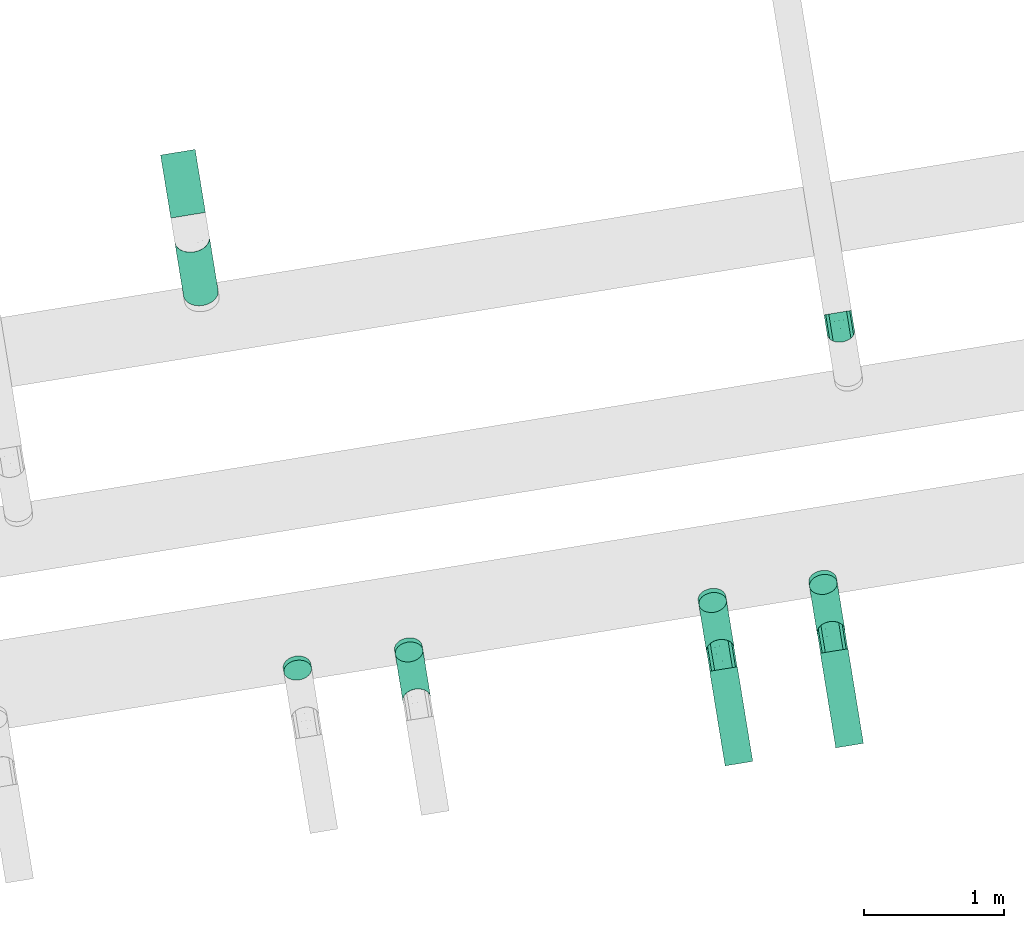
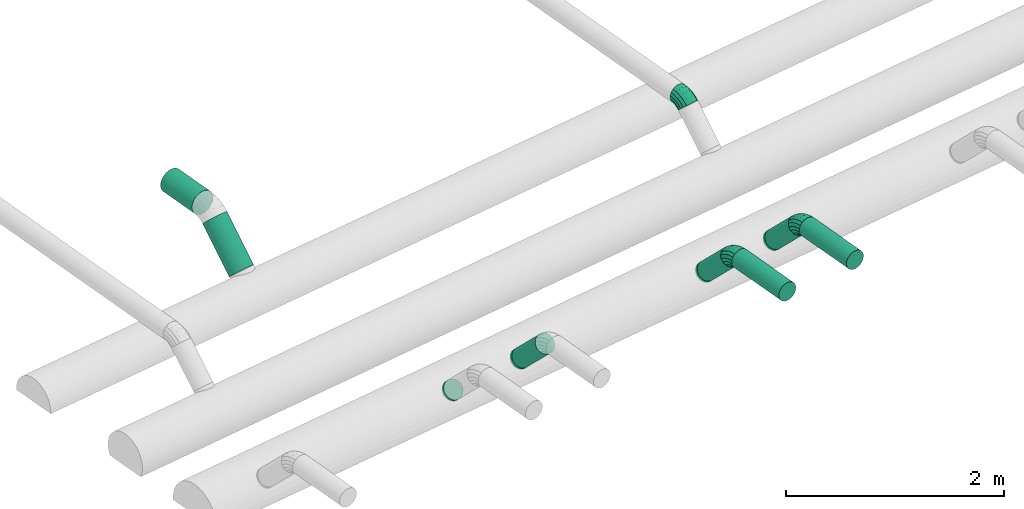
# One storey, part 3 of 19: 7 flow fittings, 7 flow segments.
"""IFC2X3 building model written with IfcOpenShell, lengths in millimetres."""

from ifc_helpers import new_model, entity, si_unit, converted_unit, derived_unit, direction, frame, frame_2d, origin, origin_with_axes, origin_2d_with_axis, place, context, subcontext, project, spatial, circle, extrude, faceted_brep, source, transform, mapped, material, type_object, element, save


model = new_model("IFC2X3")

# Units and contexts
model_context = context("Model", 3, precision=0.01, world=origin(), true_north=direction((6.12323399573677e-17, 1.0)))
plan_context = context("Plan", 3, precision=1e-05, world=origin_with_axes())
body_context = subcontext(model_context, "Body", "Model", "MODEL_VIEW")
ifc_project = project(units=[converted_unit("PLANEANGLEUNIT", "DEGREE", entity("IfcPositiveLengthMeasure", 0.0174532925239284), si_unit("PLANEANGLEUNIT", "RADIAN"), dimensions=[0, 0, 0, 0, 0, 0, 0]), si_unit("AREAUNIT", "SQUARE_METRE"), si_unit("LENGTHUNIT", "METRE", prefix="MILLI"), si_unit("MASSUNIT", "GRAM", prefix="KILO"), si_unit("POWERUNIT", "WATT"), si_unit("PRESSUREUNIT", "PASCAL", prefix="KILO"), si_unit("FORCEUNIT", "NEWTON", prefix="KILO"), si_unit("ELECTRICVOLTAGEUNIT", "VOLT"), si_unit("ELECTRICCURRENTUNIT", "AMPERE"), si_unit("THERMODYNAMICTEMPERATUREUNIT", "DEGREE_CELSIUS"), si_unit("TIMEUNIT", "SECOND"), si_unit("VOLUMEUNIT", "CUBIC_METRE"), derived_unit("LINEARVELOCITYUNIT", [(si_unit("LENGTHUNIT", "METRE"), 1), (si_unit("TIMEUNIT", "SECOND"), -1)]), derived_unit("VOLUMETRICFLOWRATEUNIT", [(si_unit("VOLUMEUNIT", "CUBIC_METRE"), 1), (si_unit("TIMEUNIT", "SECOND"), -1)]), derived_unit("THERMALTRANSMITTANCEUNIT", [(si_unit("POWERUNIT", "WATT"), 1), (si_unit("THERMODYNAMICTEMPERATUREUNIT", "KELVIN"), -1), (si_unit("AREAUNIT", "SQUARE_METRE"), -1)]), derived_unit("SOUNDPRESSUREUNIT", [(si_unit("PRESSUREUNIT", "PASCAL"), 1)])], contexts=[model_context, plan_context])

# Site, building, storey
site_placement = place(None, frame((5.09380697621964e-08, 5.80416781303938e-08, 0.0), z_axis=(0.0, 0.0, 1.0), x_axis=(-0.160806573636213, 0.986985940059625, 0.0)))
site = spatial("IfcSite", under=ifc_project, at=site_placement, Name="Default", CompositionType="ELEMENT")
building_placement = place(site_placement, frame((0.0, 0.0, 0.0), z_axis=(0.0, 0.0, 1.0), x_axis=(1.0, -2.77555756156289e-17, 0.0)))
building = spatial("IfcBuilding", under=site, at=building_placement, Name="Bygning (endres i Project Information)", CompositionType="ELEMENT")
storey_placement = place(building_placement, frame((0.0, 0.0, 51360.0000000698), z_axis=(0.0, 0.0, 1.0), x_axis=(1.0, -2.77555756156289e-17, 0.0)))
storey = spatial("IfcBuildingStorey", under=building, at=storey_placement, Name="H01-Nivå D+0,36", CompositionType="ELEMENT", Elevation=51360.0000000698)

# Flow fittings
ifc_material_1 = material(Name="3601.001 Avtrekk")
duct_fitting_type_1 = type_object("IfcDuctFittingType", Name="magicirc_elbow_full_radius_NOR:magicirc_elbow_full_radius_NOR", PredefinedType="NOTDEFINED", material=ifc_material_1)
shared_shape_1 = source(origin(), body_context, "Body", "Brep", [
    faceted_brep([(-24.3156158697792, -94.2355841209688, 0.0), (-25.4921544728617, -88.3207251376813, 34.2020143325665), (-82.8427124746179, -93.969262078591, 34.2020143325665), (-82.8427124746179, -100.0, 0.0), (-28.8798623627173, -71.2895674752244, 64.2787609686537), (-82.8427124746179, -76.604444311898, 64.2787609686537), (-34.0701319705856, -45.1963201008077, 86.6025403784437), (-82.8427124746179, -50.0, 86.6025403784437), (-40.4369401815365, -13.1882137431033, 98.4807753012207), (-82.842712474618, -17.3648177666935, 98.4807753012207), (-47.2123559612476, 20.8741015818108, 98.4807753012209), (-82.842712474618, 17.3648177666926, 98.4807753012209), (-53.5791641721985, 52.8822079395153, 86.6025403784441), (-82.8427124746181, 50.0, 86.6025403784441), (-58.7694337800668, 78.9754553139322, 64.2787609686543), (-82.8427124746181, 76.6044443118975, 64.2787609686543), (-62.1571416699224, 96.0066129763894, 34.2020143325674), (-82.8427124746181, 93.9692620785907, 34.2020143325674), (-63.3336802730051, 101.921471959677, 0.0), (-82.8427124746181, 100.0, 0.0), (-62.1571416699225, 96.0066129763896, -34.2020143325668), (-82.8427124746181, 93.9692620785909, -34.2020143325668), (-58.7694337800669, 78.9754553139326, -64.2787609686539), (-82.8427124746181, 76.6044443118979, -64.2787609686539), (-53.5791641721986, 52.8822079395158, -86.6025403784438), (-82.8427124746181, 50.0, -86.6025403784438), (-47.2123559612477, 20.8741015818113, -98.4807753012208), (-82.842712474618, 17.3648177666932, -98.4807753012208), (-40.4369401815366, -13.1882137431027, -98.4807753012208), (-82.842712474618, -17.3648177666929, -98.4807753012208), (-34.0701319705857, -45.1963201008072, -86.6025403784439), (-82.8427124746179, -50.0, -86.6025403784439), (-28.8798623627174, -71.289567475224, -64.2787609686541), (-82.8427124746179, -76.6044443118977, -64.2787609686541), (-25.4921544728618, -88.3207251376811, -34.2020143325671), (-82.8427124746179, -93.9692620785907, -34.2020143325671), (31.9623172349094, -77.1638597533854, 0.0), (29.6544537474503, -71.5921844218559, 34.2020143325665), (23.0092256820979, -55.54918470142, 64.2787609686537), (12.828145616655, -30.9698831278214, 86.6025403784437), (0.3392020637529, -0.818906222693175, 98.4807753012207), (-12.9512540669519, 31.267093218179, 98.4807753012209), (-25.440197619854, 61.4180701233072, 86.6025403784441), (-35.621277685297, 85.997371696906, 64.2787609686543), (-42.2665057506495, 102.040371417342, 34.2020143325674), (-44.5743692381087, 107.612046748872, 0.0), (-42.2665057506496, 102.040371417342, -34.2020143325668), (-35.6212776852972, 85.9973716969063, -64.2787609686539), (-25.4401976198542, 61.4180701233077, -86.6025403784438), (-12.9512540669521, 31.2670932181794, -98.4807753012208), (0.339202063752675, -0.818906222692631, -98.4807753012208), (12.8281456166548, -30.9698831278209, -86.6025403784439), (23.0092256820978, -55.5491847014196, -64.2787609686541), (29.6544537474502, -71.5921844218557, -34.2020143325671), (83.8283574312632, -49.4408836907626, 0.0), (80.4778589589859, -44.4265083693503, 34.2020143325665), (70.8304831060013, -29.9881900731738, 64.2787609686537), (56.0498457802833, -7.86740307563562, 86.6025403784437), (37.9187099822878, 19.2677592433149, 98.4807753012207), (18.6239582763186, 48.1443958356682, 98.4807753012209), (0.492822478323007, 75.2795581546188, 86.6025403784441), (-14.2878148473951, 97.4003451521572, 64.2787609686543), (-23.9351907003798, 111.838663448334, 34.2020143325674), (-27.2856891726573, 116.853038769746, 0.0), (-23.9351907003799, 111.838663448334, -34.2020143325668), (-14.2878148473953, 97.4003451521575, -64.2787609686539), (0.492822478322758, 75.2795581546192, -86.6025403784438), (18.6239582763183, 48.1443958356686, -98.4807753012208), (37.9187099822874, 19.2677592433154, -98.4807753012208), (56.049845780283, -7.86740307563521, -86.6025403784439), (70.8304831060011, -29.9881900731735, -64.2787609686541), (80.4778589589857, -44.4265083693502, -34.2020143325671), (129.289321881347, -12.1320343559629, 0.0), (125.02494620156, -7.86765867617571, 34.2020143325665), (112.746165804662, 4.41112172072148, 64.2787609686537), (93.9339828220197, 23.2233047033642, 86.6025403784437), (70.8574241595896, 46.2998633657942, 98.4807753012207), (46.299863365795, 70.8574241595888, 98.4807753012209), (23.2233047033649, 93.9339828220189, 86.6025403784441), (4.41112172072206, 112.746165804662, 64.2787609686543), (-7.86765867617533, 125.024946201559, 34.2020143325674), (-12.1320343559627, 129.289321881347, 0.0), (-7.86765867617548, 125.024946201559, -34.2020143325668), (4.41112172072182, 112.746165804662, -64.2787609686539), (23.2233047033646, 93.9339828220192, -86.6025403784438), (46.2998633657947, 70.8574241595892, -98.4807753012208), (70.8574241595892, 46.2998633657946, -98.4807753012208), (93.9339828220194, 23.2233047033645, -86.6025403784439), (112.746165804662, 4.41112172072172, -64.2787609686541), (125.02494620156, -7.86765867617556, -34.2020143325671)], [[[0, 1, 2, 3]], [[1, 4, 5, 2]], [[4, 6, 7, 5]], [[6, 8, 9, 7]], [[8, 10, 11, 9]], [[10, 12, 13, 11]], [[12, 14, 15, 13]], [[14, 16, 17, 15]], [[16, 18, 19, 17]], [[18, 20, 21, 19]], [[20, 22, 23, 21]], [[22, 24, 25, 23]], [[24, 26, 27, 25]], [[26, 28, 29, 27]], [[28, 30, 31, 29]], [[30, 32, 33, 31]], [[32, 34, 35, 33]], [[34, 0, 3, 35]], [[36, 37, 1, 0]], [[37, 38, 4, 1]], [[38, 39, 6, 4]], [[39, 40, 8, 6]], [[40, 41, 10, 8]], [[41, 42, 12, 10]], [[42, 43, 14, 12]], [[43, 44, 16, 14]], [[44, 45, 18, 16]], [[45, 46, 20, 18]], [[46, 47, 22, 20]], [[47, 48, 24, 22]], [[48, 49, 26, 24]], [[49, 50, 28, 26]], [[50, 51, 30, 28]], [[51, 52, 32, 30]], [[52, 53, 34, 32]], [[53, 36, 0, 34]], [[54, 55, 37, 36]], [[55, 56, 38, 37]], [[56, 57, 39, 38]], [[57, 58, 40, 39]], [[58, 59, 41, 40]], [[59, 60, 42, 41]], [[60, 61, 43, 42]], [[61, 62, 44, 43]], [[62, 63, 45, 44]], [[63, 64, 46, 45]], [[64, 65, 47, 46]], [[65, 66, 48, 47]], [[66, 67, 49, 48]], [[67, 68, 50, 49]], [[68, 69, 51, 50]], [[69, 70, 52, 51]], [[70, 71, 53, 52]], [[71, 54, 36, 53]], [[72, 73, 55, 54]], [[73, 74, 56, 55]], [[74, 75, 57, 56]], [[75, 76, 58, 57]], [[76, 77, 59, 58]], [[77, 78, 60, 59]], [[78, 79, 61, 60]], [[79, 80, 62, 61]], [[80, 81, 63, 62]], [[81, 82, 64, 63]], [[82, 83, 65, 64]], [[83, 84, 66, 65]], [[84, 85, 67, 66]], [[85, 86, 68, 67]], [[86, 87, 69, 68]], [[87, 88, 70, 69]], [[88, 89, 71, 70]], [[89, 72, 54, 71]], [[3, 2, 5, 7, 9, 11, 13, 15, 17, 19, 21, 23, 25, 27, 29, 31, 33, 35]], [[89, 88, 87, 86, 85, 84, 83, 82, 81, 80, 79, 78, 77, 76, 75, 74, 73, 72]]]),
])
for number, where, z_axis, x_axis, name in (
    (1, (995076.02146116, -391132.73177938, 3820.00000015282), (-2.77555756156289e-17, -1.0, 0.0), (-1.0, 2.77555756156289e-17, 0.0), "magicirc_elbow_full_radius_NOR:magicirc_elbow_full_radius_NOR"),
    (2, (992862.921338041, -389919.987431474, 3800.0), (2.77555756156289e-17, 1.0, 0.0), (1.0, -2.77555756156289e-17, 0.0), "magicirc_elbow_full_radius_NOR:magicirc_elbow_full_radius_NOR"),
    (3, (992862.921338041, -390719.987431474, 3800.0), (2.77555756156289e-17, 1.0, 0.0), (1.0, -2.77555756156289e-17, 0.0), "magicirc_elbow_full_radius_NOR:magicirc_elbow_full_radius_NOR"),
):
    element("IfcFlowFitting", number, at=place(storey_placement, frame(where, z_axis=z_axis, x_axis=x_axis)), inside=storey, type_object=duct_fitting_type_1, material=ifc_material_1, Name=name, ObjectType="magicirc_elbow_full_radius_NOR:magicirc_elbow_full_radius_NOR", context=body_context, shape_type="MappedRepresentation", body=[
        mapped(shared_shape_1, transform((0.0, 0.0, 0.0), scale=1.0)),
    ])
ifc_material_2 = material(Name="3601.001 Tilluft")
duct_fitting_type_2 = type_object("IfcDuctFittingType", Name="magicirc_tapoutlet_001:magicirc_tapoutlet_001", PredefinedType="NOTDEFINED", material=ifc_material_2)
shared_shape_2 = source(origin(), body_context, "Body", "Brep", [
    faceted_brep([(-22.3909057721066, -25.8819045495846, -96.5925827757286), (-22.3909057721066, -50.0000000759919, -86.6025405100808), (-22.3909057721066, -70.7106782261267, -70.7106782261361), (-22.3909057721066, -86.6025405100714, -50.0000000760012), (-22.3909057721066, -96.5925827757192, -25.8819045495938), (-22.3909057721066, -100.000000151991, 0.0), (-22.3909057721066, -96.5925827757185, 25.8819045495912), (-22.3909057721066, -86.6025405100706, 50.0000000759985), (-22.3909057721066, -70.7106782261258, 70.7106782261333), (-22.3909057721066, -50.0000000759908, 86.6025405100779), (-22.3909057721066, -25.8819045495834, 96.5925827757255), (-22.3909057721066, 0.0, 100.000000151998), (-22.3909057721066, 25.8819045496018, 96.5925827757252), (-22.3909057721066, 50.0000000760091, 86.6025405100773), (-22.3909057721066, 70.710678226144, 70.7106782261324), (-22.3909057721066, 86.6025405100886, 50.0000000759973), (-22.3909057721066, 96.5925827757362, 25.8819045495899), (-22.3909057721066, 100.00000015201, 0.0), (-22.3909057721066, 96.5925827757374, -25.8819045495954), (-22.3909057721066, 86.6025405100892, -50.0000000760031), (-22.3909057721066, 70.7106782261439, -70.7106782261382), (-22.3909057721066, 50.0000000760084, -86.6025405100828), (-22.3909057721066, 25.8819045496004, -96.5925827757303), (-22.3909057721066, 0.0, -100.000000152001), (0.0, -25.8819045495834, 96.5925827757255), (20.0, -25.8819045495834, 96.5925827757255), (20.0, 0.0, 100.000000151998), (0.0, 0.0, 100.000000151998), (0.0, -50.0000000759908, 86.6025405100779), (20.0, -50.0000000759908, 86.6025405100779), (0.0, -70.7106782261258, 70.7106782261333), (20.0, -70.7106782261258, 70.7106782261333), (0.0, -96.5925827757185, 25.8819045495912), (20.0, -96.5925827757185, 25.8819045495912), (20.0, -86.6025405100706, 50.0000000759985), (0.0, -86.6025405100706, 50.0000000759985), (0.0, -100.000000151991, 0.0), (20.0, -100.000000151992, 0.0), (0.0, -96.5925827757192, -25.8819045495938), (20.0, -96.5925827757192, -25.8819045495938), (0.0, -86.6025405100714, -50.0000000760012), (20.0, -86.6025405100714, -50.0000000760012), (0.0, -70.7106782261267, -70.7106782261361), (20.0, -70.7106782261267, -70.7106782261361), (0.0, 0.0, -100.000000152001), (20.0, 0.0, -100.000000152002), (20.0, -25.8819045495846, -96.5925827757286), (0.0, -25.8819045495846, -96.5925827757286), (20.0, -50.0000000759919, -86.6025405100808), (0.0, -50.0000000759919, -86.6025405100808), (0.0, 25.8819045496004, -96.5925827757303), (20.0, 25.8819045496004, -96.5925827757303), (0.0, 50.0000000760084, -86.6025405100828), (20.0, 50.0000000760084, -86.6025405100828), (0.0, 70.7106782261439, -70.7106782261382), (20.0, 70.7106782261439, -70.7106782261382), (0.0, 96.5925827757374, -25.8819045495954), (20.0, 96.5925827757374, -25.8819045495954), (20.0, 86.6025405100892, -50.0000000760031), (0.0, 86.6025405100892, -50.0000000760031), (0.0, 100.00000015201, 0.0), (20.0, 100.000000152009, 0.0), (0.0, 96.5925827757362, 25.8819045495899), (20.0, 96.5925827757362, 25.8819045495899), (0.0, 86.6025405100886, 50.0000000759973), (20.0, 86.6025405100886, 50.0000000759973), (0.0, 70.710678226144, 70.7106782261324), (20.0, 70.710678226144, 70.7106782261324), (0.0, 25.8819045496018, 96.5925827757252), (20.0, 25.8819045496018, 96.5925827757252), (20.0, 50.0000000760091, 86.6025405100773), (0.0, 50.0000000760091, 86.6025405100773)], [[[0, 1, 2, 3, 4, 5, 6, 7, 8, 9, 10, 11, 12, 13, 14, 15, 16, 17, 18, 19, 20, 21, 22, 23]], [[24, 25, 26, 27, 11, 10]], [[28, 29, 25, 24, 10, 9]], [[8, 30, 31, 29, 28, 9]], [[32, 33, 34, 35, 7, 6]], [[36, 37, 33, 32, 6, 5]], [[7, 35, 34, 31, 30, 8]], [[38, 39, 37, 36, 5, 4]], [[40, 41, 39, 38, 4, 3]], [[2, 42, 43, 41, 40, 3]], [[0, 23, 44, 45, 46, 47]], [[1, 0, 47, 46, 48, 49]], [[1, 49, 48, 43, 42, 2]], [[50, 51, 45, 44, 23, 22]], [[52, 53, 51, 50, 22, 21]], [[20, 54, 55, 53, 52, 21]], [[56, 57, 58, 59, 19, 18]], [[60, 61, 57, 56, 18, 17]], [[19, 59, 58, 55, 54, 20]], [[62, 63, 61, 60, 17, 16]], [[64, 65, 63, 62, 16, 15]], [[14, 66, 67, 65, 64, 15]], [[68, 69, 70, 71, 13, 12]], [[27, 26, 69, 68, 12, 11]], [[13, 71, 70, 67, 66, 14]], [[45, 51, 53, 55, 58, 57, 61, 63, 65, 67, 70, 69, 26, 25, 29, 31, 34, 33, 37, 39, 41, 43, 48, 46]]]),
    faceted_brep([(20.0, 0.0, -100.000000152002), (20.0, 25.8819045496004, -96.5925827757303), (20.0, 50.0000000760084, -86.6025405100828), (20.0, 70.710678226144, -70.7106782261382), (20.0, 86.6025405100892, -50.0000000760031), (20.0, 96.5925827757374, -25.8819045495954), (20.0, 100.000000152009, 0.0), (20.0, 96.5925827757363, 25.8819045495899), (20.0, 86.6025405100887, 50.0000000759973), (20.0, 70.710678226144, 70.7106782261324), (20.0, 50.0000000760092, 86.6025405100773), (20.0, 25.8819045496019, 96.5925827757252), (20.0, 0.0, 100.000000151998), (20.0, -25.8819045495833, 96.5925827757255), (20.0, -50.0000000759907, 86.6025405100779), (20.0, -70.7106782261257, 70.7106782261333), (20.0, -86.6025405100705, 50.0000000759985), (20.0, -96.5925827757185, 25.8819045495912), (20.0, -100.000000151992, 0.0), (20.0, -96.5925827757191, -25.8819045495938), (20.0, -86.6025405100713, -50.0000000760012), (20.0, -70.7106782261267, -70.7106782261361), (20.0, -50.0000000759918, -86.6025405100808), (20.0, -25.8819045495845, -96.5925827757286), (0.0, 0.0, 100.000000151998), (-22.3909057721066, 0.0, 100.000000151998), (-22.3909057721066, -25.8819045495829, 96.5925827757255), (0.0, -25.8819045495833, 96.5925827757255), (-22.3909057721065, -50.0000000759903, 86.6025405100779), (0.0, -50.0000000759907, 86.6025405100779), (0.0, -70.7106782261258, 70.7106782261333), (-22.3909057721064, -70.7106782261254, 70.7106782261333), (0.0, -86.6025405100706, 50.0000000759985), (-22.3909057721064, -86.6025405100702, 50.0000000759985), (-22.3909057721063, -96.5925827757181, 25.8819045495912), (0.0, -96.5925827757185, 25.8819045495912), (-22.3909057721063, -100.000000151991, 0.0), (0.0, -100.000000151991, 0.0), (-22.3909057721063, -96.5925827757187, -25.8819045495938), (0.0, -96.5925827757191, -25.8819045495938), (-22.3909057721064, -86.602540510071, -50.0000000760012), (0.0, -86.6025405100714, -50.0000000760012), (0.0, -70.7106782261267, -70.7106782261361), (-22.3909057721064, -70.7106782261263, -70.7106782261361), (0.0, -25.8819045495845, -96.5925827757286), (-22.3909057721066, -25.8819045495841, -96.5925827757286), (-22.3909057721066, 0.0, -100.000000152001), (0.0, 0.0, -100.000000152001), (0.0, -50.0000000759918, -86.6025405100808), (-22.3909057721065, -50.0000000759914, -86.6025405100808), (-22.3909057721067, 25.8819045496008, -96.5925827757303), (0.0, 25.8819045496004, -96.5925827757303), (-22.3909057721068, 50.0000000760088, -86.6025405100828), (0.0, 50.0000000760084, -86.6025405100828), (0.0, 70.7106782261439, -70.7106782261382), (-22.3909057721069, 70.7106782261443, -70.7106782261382), (0.0, 86.6025405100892, -50.0000000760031), (-22.3909057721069, 86.6025405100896, -50.0000000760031), (-22.390905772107, 96.5925827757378, -25.8819045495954), (0.0, 96.5925827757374, -25.8819045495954), (-22.390905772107, 100.00000015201, 0.0), (0.0, 100.00000015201, 0.0), (-22.390905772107, 96.5925827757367, 25.8819045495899), (0.0, 96.5925827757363, 25.8819045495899), (-22.3909057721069, 86.602540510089, 50.0000000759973), (0.0, 86.6025405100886, 50.0000000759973), (0.0, 70.710678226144, 70.7106782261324), (-22.3909057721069, 70.7106782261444, 70.7106782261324), (0.0, 50.0000000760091, 86.6025405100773), (-22.3909057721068, 50.0000000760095, 86.6025405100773), (-22.3909057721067, 25.8819045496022, 96.5925827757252), (0.0, 25.8819045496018, 96.5925827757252)], [[[0, 1, 2, 3, 4, 5, 6, 7, 8, 9, 10, 11, 12, 13, 14, 15, 16, 17, 18, 19, 20, 21, 22, 23]], [[13, 12, 24, 25, 26, 27]], [[14, 13, 27, 26, 28, 29]], [[30, 15, 14, 29, 28, 31]], [[17, 16, 32, 33, 34, 35]], [[18, 17, 35, 34, 36, 37]], [[32, 16, 15, 30, 31, 33]], [[19, 18, 37, 36, 38, 39]], [[20, 19, 39, 38, 40, 41]], [[42, 21, 20, 41, 40, 43]], [[44, 45, 46, 47, 0, 23]], [[48, 49, 45, 44, 23, 22]], [[48, 22, 21, 42, 43, 49]], [[1, 0, 47, 46, 50, 51]], [[2, 1, 51, 50, 52, 53]], [[54, 3, 2, 53, 52, 55]], [[5, 4, 56, 57, 58, 59]], [[6, 5, 59, 58, 60, 61]], [[56, 4, 3, 54, 55, 57]], [[7, 6, 61, 60, 62, 63]], [[8, 7, 63, 62, 64, 65]], [[66, 9, 8, 65, 64, 67]], [[11, 10, 68, 69, 70, 71]], [[12, 11, 71, 70, 25, 24]], [[68, 10, 9, 66, 67, 69]], [[45, 49, 43, 40, 38, 36, 34, 33, 31, 28, 26, 25, 70, 69, 67, 64, 62, 60, 58, 57, 55, 52, 50, 46]]]),
    faceted_brep([(-22.3909057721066, -25.8819045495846, -96.5925827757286), (-22.3909057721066, -50.0000000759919, -86.6025405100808), (-22.3909057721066, -70.7106782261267, -70.7106782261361), (-22.3909057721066, -86.6025405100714, -50.0000000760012), (-22.3909057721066, -96.5925827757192, -25.8819045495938), (-22.3909057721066, -100.000000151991, 0.0), (-22.3909057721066, -96.5925827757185, 25.8819045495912), (-22.3909057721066, -86.6025405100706, 50.0000000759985), (-22.3909057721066, -70.7106782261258, 70.7106782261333), (-22.3909057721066, -50.0000000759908, 86.6025405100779), (-22.3909057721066, -25.8819045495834, 96.5925827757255), (-22.3909057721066, 0.0, 100.000000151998), (-22.3909057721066, 25.8819045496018, 96.5925827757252), (-22.3909057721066, 50.0000000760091, 86.6025405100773), (-22.3909057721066, 70.710678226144, 70.7106782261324), (-22.3909057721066, 86.6025405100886, 50.0000000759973), (-22.3909057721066, 96.5925827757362, 25.8819045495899), (-22.3909057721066, 100.00000015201, 0.0), (-22.3909057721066, 96.5925827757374, -25.8819045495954), (-22.3909057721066, 86.6025405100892, -50.0000000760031), (-22.3909057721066, 70.7106782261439, -70.7106782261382), (-22.3909057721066, 50.0000000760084, -86.6025405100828), (-22.3909057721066, 25.8819045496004, -96.5925827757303), (-22.3909057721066, 0.0, -100.000000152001), (0.0, -25.8819045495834, 96.5925827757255), (20.0, -25.8819045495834, 96.5925827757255), (20.0, 0.0, 100.000000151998), (0.0, 0.0, 100.000000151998), (0.0, -50.0000000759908, 86.6025405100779), (20.0, -50.0000000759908, 86.6025405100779), (0.0, -70.7106782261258, 70.7106782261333), (20.0, -70.7106782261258, 70.7106782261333), (0.0, -96.5925827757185, 25.8819045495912), (20.0, -96.5925827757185, 25.8819045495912), (20.0, -86.6025405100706, 50.0000000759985), (0.0, -86.6025405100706, 50.0000000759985), (0.0, -100.000000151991, 0.0), (20.0, -100.000000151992, 0.0), (0.0, -96.5925827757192, -25.8819045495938), (20.0, -96.5925827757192, -25.8819045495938), (0.0, -86.6025405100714, -50.0000000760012), (20.0, -86.6025405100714, -50.0000000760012), (0.0, -70.7106782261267, -70.7106782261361), (20.0, -70.7106782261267, -70.7106782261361), (0.0, 0.0, -100.000000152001), (20.0, 0.0, -100.000000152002), (20.0, -25.8819045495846, -96.5925827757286), (0.0, -25.8819045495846, -96.5925827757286), (20.0, -50.0000000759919, -86.6025405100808), (0.0, -50.0000000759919, -86.6025405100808), (0.0, 25.8819045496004, -96.5925827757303), (20.0, 25.8819045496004, -96.5925827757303), (0.0, 50.0000000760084, -86.6025405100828), (20.0, 50.0000000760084, -86.6025405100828), (0.0, 70.7106782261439, -70.7106782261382), (20.0, 70.7106782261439, -70.7106782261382), (0.0, 96.5925827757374, -25.8819045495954), (20.0, 96.5925827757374, -25.8819045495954), (20.0, 86.6025405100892, -50.0000000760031), (0.0, 86.6025405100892, -50.0000000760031), (0.0, 100.00000015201, 0.0), (20.0, 100.000000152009, 0.0), (0.0, 96.5925827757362, 25.8819045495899), (20.0, 96.5925827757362, 25.8819045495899), (0.0, 86.6025405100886, 50.0000000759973), (20.0, 86.6025405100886, 50.0000000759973), (0.0, 70.710678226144, 70.7106782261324), (20.0, 70.710678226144, 70.7106782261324), (0.0, 25.8819045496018, 96.5925827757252), (20.0, 25.8819045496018, 96.5925827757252), (20.0, 50.0000000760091, 86.6025405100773), (0.0, 50.0000000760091, 86.6025405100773)], [[[0, 1, 2, 3, 4, 5, 6, 7, 8, 9, 10, 11, 12, 13, 14, 15, 16, 17, 18, 19, 20, 21, 22, 23]], [[24, 25, 26, 27, 11, 10]], [[28, 29, 25, 24, 10, 9]], [[8, 30, 31, 29, 28, 9]], [[32, 33, 34, 35, 7, 6]], [[36, 37, 33, 32, 6, 5]], [[7, 35, 34, 31, 30, 8]], [[38, 39, 37, 36, 5, 4]], [[40, 41, 39, 38, 4, 3]], [[2, 42, 43, 41, 40, 3]], [[0, 23, 44, 45, 46, 47]], [[1, 0, 47, 46, 48, 49]], [[1, 49, 48, 43, 42, 2]], [[50, 51, 45, 44, 23, 22]], [[52, 53, 51, 50, 22, 21]], [[20, 54, 55, 53, 52, 21]], [[56, 57, 58, 59, 19, 18]], [[60, 61, 57, 56, 18, 17]], [[19, 59, 58, 55, 54, 20]], [[62, 63, 61, 60, 17, 16]], [[64, 65, 63, 62, 16, 15]], [[14, 66, 67, 65, 64, 15]], [[68, 69, 70, 71, 13, 12]], [[27, 26, 69, 68, 12, 11]], [[13, 71, 70, 67, 66, 14]], [[45, 51, 53, 55, 58, 57, 61, 63, 65, 67, 70, 69, 26, 25, 29, 31, 34, 33, 37, 39, 41, 43, 48, 46]]]),
])
flow_fitting_1_placement = place(storey_placement, frame((993275.16478585, -386919.987431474, 3387.75655219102), z_axis=(0.707106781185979, -1.26830970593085e-06, 0.707106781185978), x_axis=(-0.707106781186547, 1.38777878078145e-17, 0.707106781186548)))
element("IfcFlowFitting", 4, at=flow_fitting_1_placement, inside=storey, type_object=duct_fitting_type_2, material=ifc_material_2, Name="magicirc_tapoutlet_001:magicirc_tapoutlet_001", ObjectType="magicirc_tapoutlet_001:magicirc_tapoutlet_001", context=body_context, shape_type="MappedRepresentation", body=[
    mapped(shared_shape_2, transform((0.0, 0.0, 0.0), scale=1.0)),
])
duct_fitting_type_3 = type_object("IfcDuctFittingType", Name="magicirc_tapoutlet_001:magicirc_tapoutlet_001", PredefinedType="NOTDEFINED", material=ifc_material_2)
flow_fitting_2_placement = place(storey_placement, frame((993275.165146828, -387724.987431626, 3387.75619121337), z_axis=(0.707106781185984, -1.26830987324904e-06, 0.707106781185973), x_axis=(-0.707106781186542, 0.0, 0.707106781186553)))
element("IfcFlowFitting", 5, at=flow_fitting_2_placement, inside=storey, type_object=duct_fitting_type_3, material=ifc_material_2, Name="magicirc_tapoutlet_001:magicirc_tapoutlet_001", ObjectType="magicirc_tapoutlet_001:magicirc_tapoutlet_001", context=body_context, shape_type="MappedRepresentation", body=[
    mapped(shared_shape_2, transform((0.0, 0.0, 0.0), scale=1.0)),
])
duct_fitting_type_4 = type_object("IfcDuctFittingType", Name="magicirc_tapoutlet_001:magicirc_tapoutlet_001", PredefinedType="NOTDEFINED", material=ifc_material_2)
flow_fitting_3_placement = place(storey_placement, frame((993275.166131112, -389919.987431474, 3387.7552069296), z_axis=(0.707106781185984, -1.26830987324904e-06, 0.707106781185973), x_axis=(-0.707106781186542, 0.0, 0.707106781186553)))
element("IfcFlowFitting", 6, at=flow_fitting_3_placement, inside=storey, type_object=duct_fitting_type_4, material=ifc_material_2, Name="magicirc_tapoutlet_001:magicirc_tapoutlet_001", ObjectType="magicirc_tapoutlet_001:magicirc_tapoutlet_001", context=body_context, shape_type="MappedRepresentation", body=[
    mapped(shared_shape_2, transform((0.0, 0.0, 0.0), scale=1.0)),
])
duct_fitting_type_5 = type_object("IfcDuctFittingType", Name="magicirc_tapoutlet_001:magicirc_tapoutlet_001", PredefinedType="NOTDEFINED", material=ifc_material_2)
flow_fitting_4_placement = place(storey_placement, frame((993275.166489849, -390719.987431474, 3387.75484819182), z_axis=(0.707106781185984, -1.26830987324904e-06, 0.707106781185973), x_axis=(-0.707106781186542, 0.0, 0.707106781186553)))
element("IfcFlowFitting", 7, at=flow_fitting_4_placement, inside=storey, type_object=duct_fitting_type_5, material=ifc_material_2, Name="magicirc_tapoutlet_001:magicirc_tapoutlet_001", ObjectType="magicirc_tapoutlet_001:magicirc_tapoutlet_001", context=body_context, shape_type="MappedRepresentation", body=[
    mapped(shared_shape_2, transform((0.0, 0.0, 0.0), scale=1.0)),
])

# Flow segments
duct_segment_type = type_object("IfcDuctSegmentType", Name="Round Duct:Sirkulær kanal", PredefinedType="NOTDEFINED", material=ifc_material_2)
flow_segment_1_placement = place(storey_placement, frame((0.0, 0.0, 0.0), z_axis=(0.0, 0.0, 1.0), x_axis=(1.0, -2.77555756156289e-17, 0.0)))
element("IfcFlowSegment", 8, at=flow_segment_1_placement, inside=storey, type_object=duct_segment_type, Name="Round Duct:Sirkulær kanal", ObjectType="Round Duct:Sirkulær kanal", context=body_context, shape_type="SweptSolid", body=[
    extrude(circle(Radius=125.00000019, at=origin_2d_with_axis()), frame((996590.097863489, -386670.237695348, 3800.0), z_axis=(1.0, 0.0, 0.0), x_axis=(0.0, -1.0, 0.0)), (0.0, 0.0, 1.0), 455.574503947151),
])
flow_segment_2_placement = place(storey_placement, frame((0.0, 0.0, 0.0), z_axis=(0.0, 0.0, 1.0), x_axis=(1.0, -2.77555756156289e-17, 0.0)))
element("IfcFlowSegment", 9, at=flow_segment_2_placement, inside=storey, type_object=duct_segment_type, Name="Round Duct:Sirkulær kanal", ObjectType="Round Duct:Sirkulær kanal", context=body_context, shape_type="SweptSolid", body=[
    extrude(circle(Radius=100.000000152, at=frame_2d((6.93034962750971e-11, 0.0), x_axis=(1.0, 0.0))), frame((992095.9462867, -389919.987431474, 3800.0), z_axis=(1.0, 0.0, 0.0), x_axis=(0.0, 1.0, 0.0)), (0.0, 0.0, 1.0), 684.132338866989),
])
flow_segment_3_placement = place(storey_placement, frame((0.0, 0.0, 0.0), z_axis=(0.0, 0.0, 1.0), x_axis=(1.0, -2.77555756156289e-17, 0.0)))
element("IfcFlowSegment", 10, at=flow_segment_3_placement, inside=storey, type_object=duct_segment_type, Name="Round Duct:Sirkulær kanal", ObjectType="Round Duct:Sirkulær kanal", context=body_context, shape_type="SweptSolid", body=[
    extrude(circle(Radius=100.000000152, at=origin_2d_with_axis()), frame((992095.9462867, -390719.987431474, 3800.0), z_axis=(1.0, 0.0, 0.0), x_axis=(0.0, 1.0, 0.0)), (0.0, 0.0, 1.0), 684.132338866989),
])
flow_segment_4_placement = place(storey_placement, frame((0.0, 0.0, 0.0), z_axis=(0.0, 0.0, 1.0), x_axis=(1.0, -2.77555756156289e-17, 0.0)))
element("IfcFlowSegment", 11, at=flow_segment_4_placement, inside=storey, type_object=duct_segment_type, Name="Round Duct:Sirkulær kanal", ObjectType="Round Duct:Sirkulær kanal", context=body_context, shape_type="SweptSolid", body=[
    extrude(circle(Radius=100.000000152, at=frame_2d((7.76918625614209e-18, 6.12562152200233e-12), x_axis=(1.0, 0.0))), frame((992921.499981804, -387724.987431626, 3741.42135623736), z_axis=(0.707106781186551, 0.0, -0.707106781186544), x_axis=(-8.96830512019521e-07, -1.0, -8.96830512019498e-07)), (0.0, 0.0, 1.0), 480.158072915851),
])
flow_segment_5_placement = place(storey_placement, frame((0.0, 0.0, 0.0), z_axis=(0.0, 0.0, 1.0), x_axis=(1.0, -2.77555756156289e-17, 0.0)))
element("IfcFlowSegment", 12, at=flow_segment_5_placement, inside=storey, type_object=duct_segment_type, Name="Round Duct:Sirkulær kanal", ObjectType="Round Duct:Sirkulær kanal", context=body_context, shape_type="SweptSolid", body=[
    extrude(circle(Radius=100.000000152, at=origin_2d_with_axis()), frame((992921.499981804, -389919.987431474, 3741.42135623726), z_axis=(0.707106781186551, 0.0, -0.707106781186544), x_axis=(-8.96830512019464e-07, -1.0, -8.96830512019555e-07)), (0.0, 0.0, 1.0), 480.159464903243),
])
flow_segment_6_placement = place(storey_placement, frame((0.0, 0.0, 0.0), z_axis=(0.0, 0.0, 1.0), x_axis=(1.0, -2.77555756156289e-17, 0.0)))
element("IfcFlowSegment", 13, at=flow_segment_6_placement, inside=storey, type_object=duct_segment_type, Name="Round Duct:Sirkulær kanal", ObjectType="Round Duct:Sirkulær kanal", context=body_context, shape_type="SweptSolid", body=[
    extrude(circle(Radius=100.000000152, at=frame_2d((-7.76918625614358e-18, 6.12562152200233e-12), x_axis=(1.0, 0.0))), frame((993261.024354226, -390719.987431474, 3401.89698381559), z_axis=(-0.707106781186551, 0.0, 0.707106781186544), x_axis=(-8.96830512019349e-07, -1.0, -8.9683051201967e-07)), (0.0, 0.0, 1.0), 480.159972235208),
])
flow_segment_7_placement = place(storey_placement, frame((0.0, 0.0, 0.0), z_axis=(0.0, 0.0, 1.0), x_axis=(1.0, -2.77555756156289e-17, 0.0)))
element("IfcFlowSegment", 14, at=flow_segment_7_placement, inside=storey, type_object=duct_segment_type, Name="Round Duct:Sirkulær kanal", ObjectType="Round Duct:Sirkulær kanal", context=body_context, shape_type="SweptSolid", body=[
    extrude(circle(Radius=125.00000019, at=frame_2d((0.0, -9.80099443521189e-11), x_axis=(1.0, 0.0))), frame((996026.104155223, -386670.237695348, 3339.55968232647), z_axis=(0.707106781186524, 0.0, 0.707106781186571), x_axis=(0.0, -1.0, 0.0)), (0.0, 0.0, 1.0), 547.607551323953),
])

save(model, "model.ifc")
